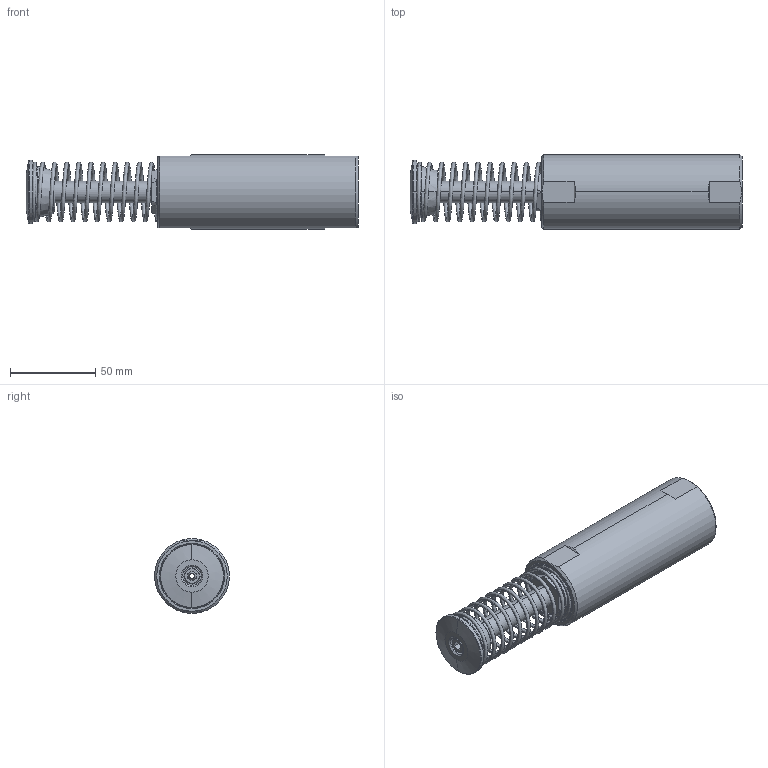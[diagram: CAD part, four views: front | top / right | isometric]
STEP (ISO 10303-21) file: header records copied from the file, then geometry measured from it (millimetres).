
FILE_DESCRIPTION (( 'STEP AP214' ), '1' );
FILE_NAME ('PMXT 1550.STEP', '2010-08-04T14:15:58', ( ' ' ), ( '' ), 'SwSTEP 2.0', 'SolidWorks 2006233', '' );
FILE_SCHEMA (( 'AUTOMOTIVE_DESIGN' ));
Length unit declared in the file: inch
Products named in the file (1): PMXT 1550
Bounding box: 195.05 x 43.78 x 43.94 mm (x, y, z)
Surface area: 36561.8 mm2 (no closed solid volume)
Topology: 0 solids, 7 shells, 131 faces, 327 edges, 203 vertices
Faces by surface type: plane 47, cone 42, cylinder 34, bspline 6, torus 2
Entity records: 11015 total; most frequent: CARTESIAN_POINT 6281, DIRECTION 634, ORIENTED_EDGE 606, EDGE_CURVE 327, AXIS2_PLACEMENT_3D 254, VERTEX_POINT 203, EDGE_LOOP 143, UNCERTAINTY_MEASURE_WITH_UNIT 132
